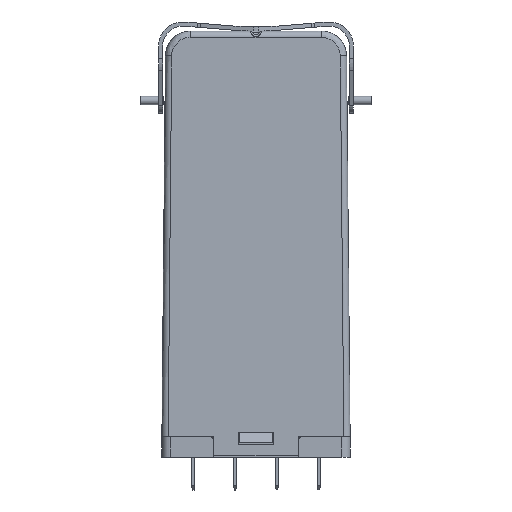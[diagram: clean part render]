
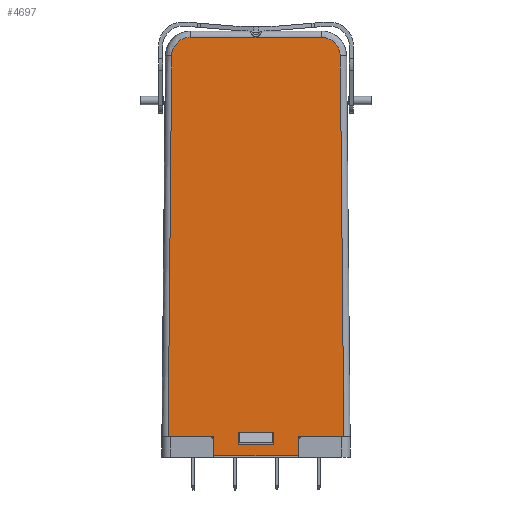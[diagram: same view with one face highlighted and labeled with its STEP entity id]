
A CAD part, left-side view. The second image highlights one B-rep face of the part: STEP entity #4697.
In plain terms, the highlighted planar face has unit normal (-1, 0, 0.009).
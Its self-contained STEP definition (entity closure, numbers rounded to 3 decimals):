
#1811=CARTESIAN_POINT('',(-31.25,17.125,-3.273));
#1812=VERTEX_POINT('',#1811);
#1827=CARTESIAN_POINT('',(-31.25,16.075,-3.273));
#1828=VERTEX_POINT('',#1827);
#1835=CARTESIAN_POINT('',(-31.25,16.075,-3.273));
#1836=DIRECTION('',(0.0,1.0,0.0));
#1837=VECTOR('',#1836,1.05);
#1838=LINE('',#1835,#1837);
#1839=EDGE_CURVE('',#1828,#1812,#1838,.T.);
#1933=CARTESIAN_POINT('',(-31.25,26.475,-3.273));
#1934=VERTEX_POINT('',#1933);
#1942=CARTESIAN_POINT('',(-31.25,26.975,-3.273));
#1943=VERTEX_POINT('',#1942);
#1944=CARTESIAN_POINT('',(-31.25,26.475,-3.273));
#1945=DIRECTION('',(0.,1.0,0.));
#1946=VECTOR('',#1945,0.5);
#1947=LINE('',#1944,#1946);
#1948=EDGE_CURVE('',#1934,#1943,#1947,.T.);
#2079=CARTESIAN_POINT('',(-31.268,10.275,-5.223));
#2080=VERTEX_POINT('',#2079);
#2087=CARTESIAN_POINT('',(-31.268,1.675,-5.223));
#2088=VERTEX_POINT('',#2087);
#2089=CARTESIAN_POINT('',(-31.268,1.675,-5.223));
#2090=DIRECTION('',(0.0,1.0,0.0));
#2091=VECTOR('',#2090,8.6);
#2092=LINE('',#2089,#2091);
#2093=EDGE_CURVE('',#2088,#2080,#2092,.T.);
#2117=CARTESIAN_POINT('',(-31.25,-14.525,-3.273));
#2118=VERTEX_POINT('',#2117);
#2136=CARTESIAN_POINT('',(-31.25,-15.025,-3.273));
#2137=VERTEX_POINT('',#2136);
#2145=CARTESIAN_POINT('',(-31.25,-15.025,-3.273));
#2146=DIRECTION('',(0.,1.0,0.));
#2147=VECTOR('',#2146,0.5);
#2148=LINE('',#2145,#2147);
#2149=EDGE_CURVE('',#2137,#2118,#2148,.T.);
#2243=CARTESIAN_POINT('',(-31.25,-5.175,-3.273));
#2244=VERTEX_POINT('',#2243);
#2251=CARTESIAN_POINT('',(-31.25,-4.125,-3.273));
#2252=VERTEX_POINT('',#2251);
#2253=CARTESIAN_POINT('',(-31.25,-5.175,-3.273));
#2254=DIRECTION('',(0.,1.0,0.));
#2255=VECTOR('',#2254,1.05);
#2256=LINE('',#2253,#2255);
#2257=EDGE_CURVE('',#2244,#2252,#2256,.T.);
#4309=CARTESIAN_POINT('',(-30.405,26.13,87.683));
#4310=VERTEX_POINT('',#4309);
#4311=CARTESIAN_POINT('',(-31.25,26.975,-3.273));
#4312=DIRECTION('',(0.009,-0.009,1.));
#4313=VECTOR('',#4312,90.964);
#4314=LINE('',#4311,#4313);
#4315=EDGE_CURVE('',#1943,#4310,#4314,.T.);
#4426=CARTESIAN_POINT('',(-30.364,21.63,92.141));
#4427=VERTEX_POINT('',#4426);
#4443=CARTESIAN_POINT('',(-30.406,21.63,87.641));
#4444=DIRECTION('',(1.,0.,-0.009));
#4445=DIRECTION('',(0.009,0.,1.));
#4446=AXIS2_PLACEMENT_3D('',#4443,#4444,#4445);
#4447=ELLIPSE('',#4446,4.5,4.5);
#4448=EDGE_CURVE('',#4310,#4427,#4447,.T.);
#4461=CARTESIAN_POINT('',(-30.364,-9.681,92.141));
#4462=VERTEX_POINT('',#4461);
#4463=CARTESIAN_POINT('',(-30.364,21.63,92.141));
#4464=DIRECTION('',(0.0,-1.0,0.0));
#4465=VECTOR('',#4464,31.311);
#4466=LINE('',#4463,#4465);
#4467=EDGE_CURVE('',#4427,#4462,#4466,.T.);
#4571=CARTESIAN_POINT('',(-30.405,-14.18,87.683));
#4572=VERTEX_POINT('',#4571);
#4590=CARTESIAN_POINT('',(-30.406,-9.681,87.641));
#4591=DIRECTION('',(1.,0.,-0.009));
#4592=DIRECTION('',(0.009,0.,1.));
#4593=AXIS2_PLACEMENT_3D('',#4590,#4591,#4592);
#4594=ELLIPSE('',#4593,4.5,4.5);
#4595=EDGE_CURVE('',#4462,#4572,#4594,.T.);
#4613=CARTESIAN_POINT('',(-30.405,-14.18,87.683));
#4614=DIRECTION('',(-0.009,-0.009,-1.));
#4615=VECTOR('',#4614,90.964);
#4616=LINE('',#4613,#4615);
#4617=EDGE_CURVE('',#4572,#2137,#4616,.T.);
#4622=CARTESIAN_POINT('',(-30.8,-5.275,45.177));
#4623=DIRECTION('',(-1.,0.,0.009));
#4624=DIRECTION('',(0.009,0.0,1.));
#4625=AXIS2_PLACEMENT_3D('',#4622,#4623,#4624);
#4626=PLANE('',#4625);
#4627=ORIENTED_EDGE('',*,*,#4617,.F.);
#4628=ORIENTED_EDGE('',*,*,#4595,.F.);
#4629=ORIENTED_EDGE('',*,*,#4467,.F.);
#4630=ORIENTED_EDGE('',*,*,#4448,.F.);
#4631=ORIENTED_EDGE('',*,*,#4315,.F.);
#4632=ORIENTED_EDGE('',*,*,#1948,.F.);
#4633=CARTESIAN_POINT('',(-31.25,17.125,-3.273));
#4634=DIRECTION('',(0.0,1.0,0.0));
#4635=VECTOR('',#4634,9.35);
#4636=LINE('',#4633,#4635);
#4637=EDGE_CURVE('',#1934,#1812,#4636,.F.);
#4638=ORIENTED_EDGE('',*,*,#4637,.T.);
#4639=ORIENTED_EDGE('',*,*,#1839,.F.);
#4640=CARTESIAN_POINT('',(-31.293,16.075,-7.873));
#4641=VERTEX_POINT('',#4640);
#4642=CARTESIAN_POINT('',(-31.293,16.075,-7.873));
#4643=DIRECTION('',(0.009,0.,1.));
#4644=VECTOR('',#4643,4.6);
#4645=LINE('',#4642,#4644);
#4646=EDGE_CURVE('',#4641,#1828,#4645,.T.);
#4647=ORIENTED_EDGE('',*,*,#4646,.F.);
#4648=CARTESIAN_POINT('',(-31.293,-4.125,-7.873));
#4649=VERTEX_POINT('',#4648);
#4650=CARTESIAN_POINT('',(-31.293,-4.125,-7.873));
#4651=DIRECTION('',(0.0,1.0,0.0));
#4652=VECTOR('',#4651,20.2);
#4653=LINE('',#4650,#4652);
#4654=EDGE_CURVE('',#4649,#4641,#4653,.T.);
#4655=ORIENTED_EDGE('',*,*,#4654,.F.);
#4656=CARTESIAN_POINT('',(-31.25,-4.125,-3.273));
#4657=DIRECTION('',(-0.009,0.0,-1.));
#4658=VECTOR('',#4657,4.6);
#4659=LINE('',#4656,#4658);
#4660=EDGE_CURVE('',#2252,#4649,#4659,.T.);
#4661=ORIENTED_EDGE('',*,*,#4660,.F.);
#4662=ORIENTED_EDGE('',*,*,#2257,.F.);
#4663=CARTESIAN_POINT('',(-31.25,-14.525,-3.273));
#4664=DIRECTION('',(0.0,1.0,0.0));
#4665=VECTOR('',#4664,9.35);
#4666=LINE('',#4663,#4665);
#4667=EDGE_CURVE('',#2244,#2118,#4666,.F.);
#4668=ORIENTED_EDGE('',*,*,#4667,.T.);
#4669=ORIENTED_EDGE('',*,*,#2149,.F.);
#4670=EDGE_LOOP('',(#4627,#4628,#4629,#4630,#4631,#4632,#4638,#4639,#4647,#4655,#4661,#4662,#4668,#4669));
#4671=FACE_OUTER_BOUND('',#4670,.T.);
#4672=CARTESIAN_POINT('',(-31.24,10.275,-2.223));
#4673=VERTEX_POINT('',#4672);
#4674=CARTESIAN_POINT('',(-31.24,1.675,-2.223));
#4675=VERTEX_POINT('',#4674);
#4676=CARTESIAN_POINT('',(-31.24,10.275,-2.223));
#4677=DIRECTION('',(0.0,-1.0,0.0));
#4678=VECTOR('',#4677,8.6);
#4679=LINE('',#4676,#4678);
#4680=EDGE_CURVE('',#4673,#4675,#4679,.T.);
#4681=ORIENTED_EDGE('',*,*,#4680,.T.);
#4682=CARTESIAN_POINT('',(-31.24,1.675,-2.223));
#4683=DIRECTION('',(-0.009,0.,-1.));
#4684=VECTOR('',#4683,3.);
#4685=LINE('',#4682,#4684);
#4686=EDGE_CURVE('',#4675,#2088,#4685,.T.);
#4687=ORIENTED_EDGE('',*,*,#4686,.T.);
#4688=ORIENTED_EDGE('',*,*,#2093,.T.);
#4689=CARTESIAN_POINT('',(-31.268,10.275,-5.223));
#4690=DIRECTION('',(0.009,0.0,1.));
#4691=VECTOR('',#4690,3.);
#4692=LINE('',#4689,#4691);
#4693=EDGE_CURVE('',#2080,#4673,#4692,.T.);
#4694=ORIENTED_EDGE('',*,*,#4693,.T.);
#4695=EDGE_LOOP('',(#4681,#4687,#4688,#4694));
#4696=FACE_BOUND('',#4695,.T.);
#4697=ADVANCED_FACE('',(#4671,#4696),#4626,.T.);
